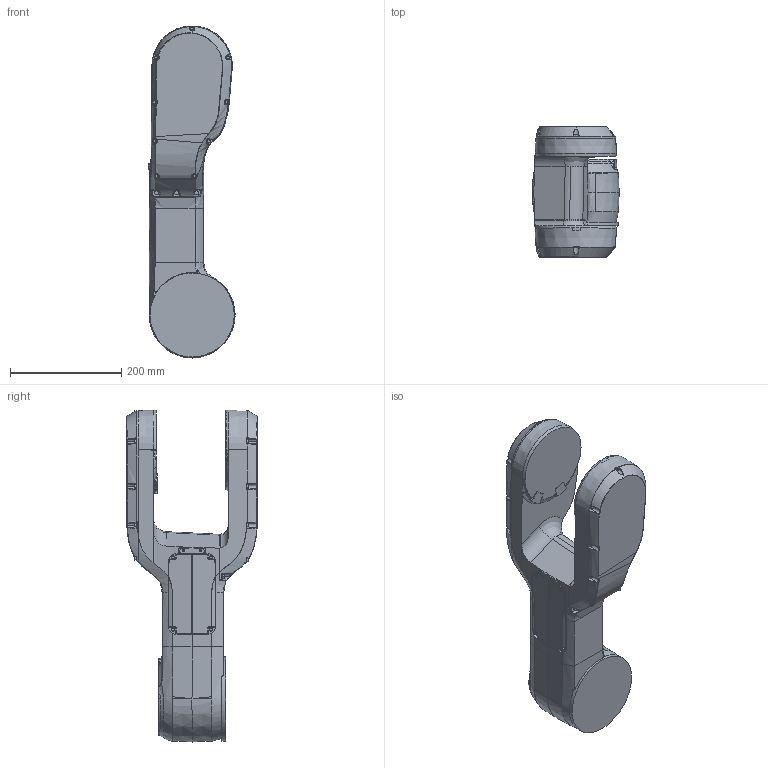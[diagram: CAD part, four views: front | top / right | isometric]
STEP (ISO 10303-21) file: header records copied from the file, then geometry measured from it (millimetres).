
FILE_DESCRIPTION (( 'STEP AP203' ), '1' );
FILE_NAME ('lower arm_900.STEP', '2014-05-16T02:44:14', ( 'ABB' ), ( 'ABB' ), 'SwSTEP 2.0', 'SolidWorks 2012', '' );
FILE_SCHEMA (( 'CONFIG_CONTROL_DESIGN' ));
Length unit declared in the file: millimetre
Products named in the file (1): lower arm_900
Bounding box: 155.5 x 235 x 597.94 mm (x, y, z)
Volume: 7972670.2 mm3; surface area: 367811.5 mm2
Topology: 1 solids, 11 shells, 1042 faces, 2540 edges, 1522 vertices
Faces by surface type: bspline 457, plane 248, cylinder 197, cone 64, torus 58, sphere 18
Entity records: 65336 total; most frequent: CARTESIAN_POINT 44808, ORIENTED_EDGE 5028, DIRECTION 3216, EDGE_CURVE 2514, VERTEX_POINT 1522, AXIS2_PLACEMENT_3D 1332, B_SPLINE_CURVE_WITH_KNOTS 1141, EDGE_LOOP 1070
